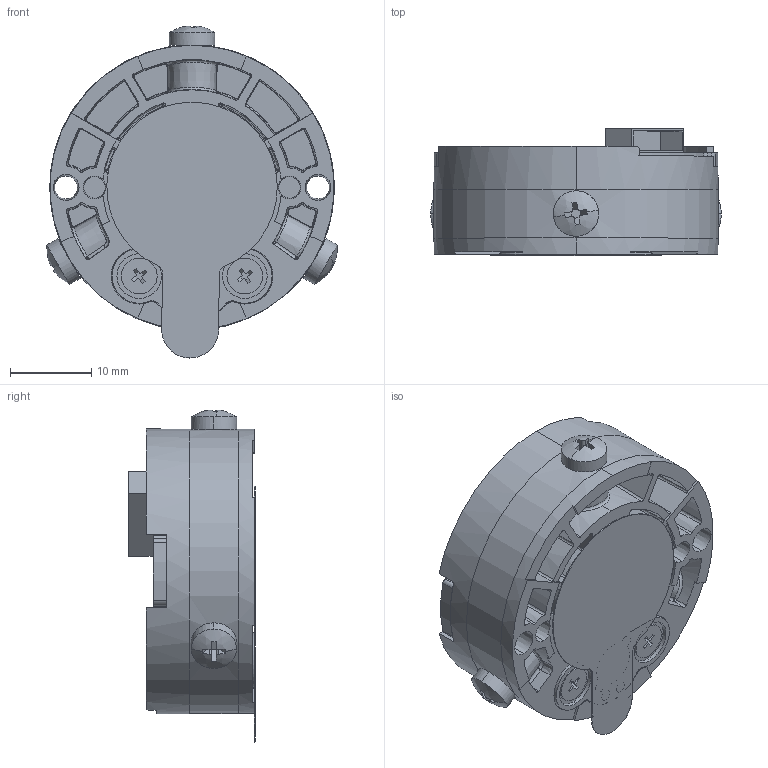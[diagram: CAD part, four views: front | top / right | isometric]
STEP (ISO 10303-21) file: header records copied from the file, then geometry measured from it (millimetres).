
FILE_DESCRIPTION (( 'STEP AP214' ), '1' );
FILE_NAME ('35分体光电编码器塑料款.STEP', '2022-05-07T07:19:45', ( '' ), ( '' ), 'SwSTEP 2.0', 'SolidWorks 2016', '' );
FILE_SCHEMA (( 'AUTOMOTIVE_DESIGN' ));
Length unit declared in the file: millimetre
Products named in the file (2): 35分体光电编码器塑料款
Bounding box: 35.77 x 15.59 x 40.87 mm (x, y, z)
Surface area: 10648.1 mm2 (no closed solid volume)
Topology: 0 solids, 13 shells, 1122 faces, 2998 edges, 1929 vertices
Faces by surface type: bspline 448, plane 310, cylinder 267, cone 97
Entity records: 48155 total; most frequent: CARTESIAN_POINT 22885, ORIENTED_EDGE 5906, DIRECTION 4192, EDGE_CURVE 2990, VERTEX_POINT 1929, AXIS2_PLACEMENT_3D 1525, EDGE_LOOP 1201, VECTOR 1142
